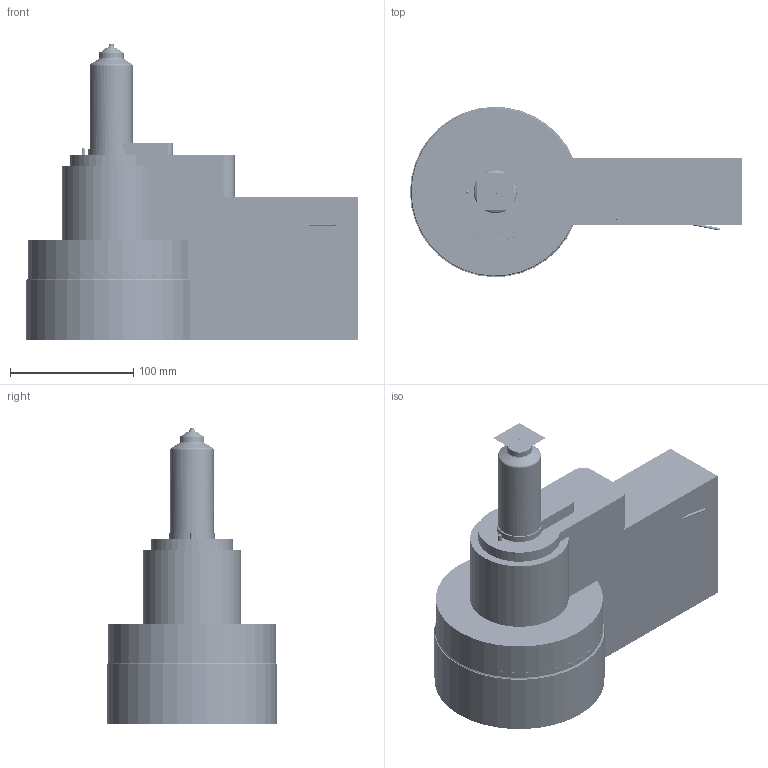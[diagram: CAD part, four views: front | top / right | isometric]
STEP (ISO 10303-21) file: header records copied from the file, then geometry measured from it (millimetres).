
FILE_DESCRIPTION (( 'STEP AP214' ), '1' );
FILE_NAME ('12SVH-06_VSW.STEP', '2021-06-28T06:09:53', ( '' ), ( '' ), 'SwSTEP 2.0', 'SolidWorks 2018', '' );
FILE_SCHEMA (( 'AUTOMOTIVE_DESIGN' ));
Length unit declared in the file: millimetre
Products named in the file (13): DIN912_M03x014; DIN912_M03x010; 12SVH-06_VSW; DIN912_M04x012; nozzle_VSW; DIN912_M05x090; cable grounding_dummy_cable dround_dummy; cutout_VSW; hyc2013s01_HYC2013s01; MB600-060_MB600-060; DIN912_M06x010; DIN915_M06x10; DIN6325_04m6x16
Assembly tree (19 placements, depth 3):
  12SVH-06_VSW
    hyc2013s01_HYC2013s01
      MB600-060_MB600-060
    DIN912_M05x090  x4
    DIN912_M03x014  x4
    DIN6325_04m6x16
    DIN912_M06x010  x2
    DIN912_M04x012
    DIN915_M06x10
    DIN912_M03x010
    cable grounding_dummy_cable dround_dummy
    nozzle_VSW
    cutout_VSW
Bounding box: 269 x 137.94 x 240.3 mm (x, y, z)
Volume: 2568680.9 mm3; surface area: 446658.7 mm2
Topology: 17 solids, 78 shells, 3021 faces, 7239 edges, 4445 vertices
Faces by surface type: cylinder 1002, plane 900, cone 404, torus 370, bspline 306, sphere 39
Entity records: 131000 total; most frequent: CARTESIAN_POINT 62617, ORIENTED_EDGE 13782, DIRECTION 13585, EDGE_CURVE 6893, AXIS2_PLACEMENT_3D 5462, VERTEX_POINT 4276, EDGE_LOOP 3240, ADVANCED_FACE 2895
